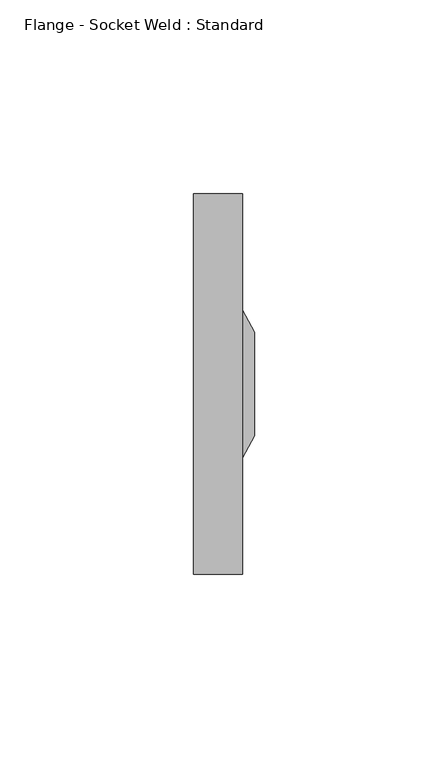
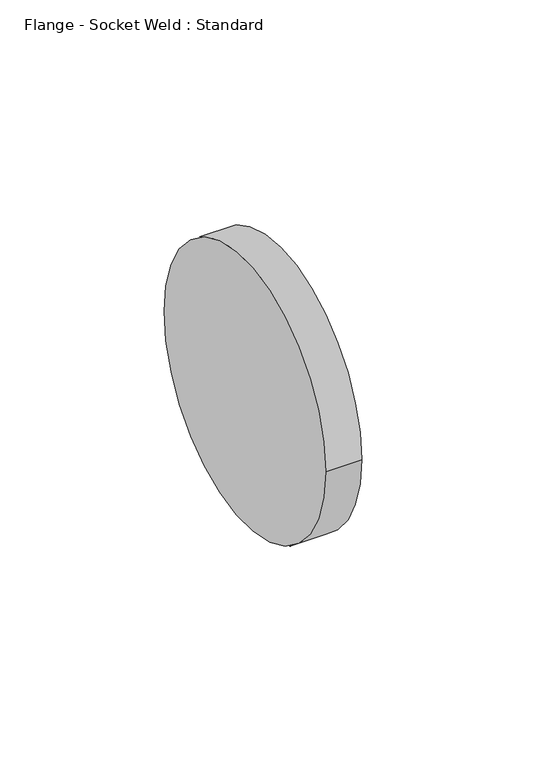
"""IFC4 building model written with IfcOpenShell, lengths in millimetres: valve geometry, Flange - Socket Weld : Standard."""

from ifc_helpers import new_model, si_unit, frame, origin, place, context, project, spatial, polyline, circle_curve, source, transform, mapped, element, save
from ifc_brep_helpers import plane_surface, cylinder_surface, revolved_surface, advanced_brep


def flange_socket_weld_standard_23d3222c(model_context):
    return source(origin(), model_context, "Body", "AdvancedBrep", [
        advanced_brep(
        [(1.5875, -49.2125, 0.0), (1.5875, 49.2125, 0.0), (14.2875, -49.2125, 0.0), (14.2875, 49.2125, 0.0), (14.2875, 19.05, 0.0), (14.2875, -19.05, 0.0), (17.4625, -13.335, 0.0), (17.4625, 13.335, 0.0)],
        [
            (0, 1, circle_curve(frame((1.5875, 0.0, 0.0), z_axis=(-1.0, 0.0, 0.0), x_axis=(0.0, 1.0, 0.0)), 49.2125)),
            (1, 0, circle_curve(frame((1.5875, 0.0, 0.0), z_axis=(-1.0, 0.0, 0.0), x_axis=(0.0, 1.0, 0.0)), 49.2125)),
            (2, 3, circle_curve(frame((14.2875, 0.0, 0.0), z_axis=(1.0, 0.0, 0.0), x_axis=(0.0, 1.0, 0.0)), 49.2125)),
            (3, 2, circle_curve(frame((14.2875, 0.0, 0.0), z_axis=(1.0, 0.0, 0.0), x_axis=(0.0, 1.0, 0.0)), 49.2125)),
            (4, 5, circle_curve(frame((14.2875, 0.0, 0.0), z_axis=(-1.0, 0.0, 0.0), x_axis=(0.0, -1.0, 0.0)), 19.05)),
            (5, 4, circle_curve(frame((14.2875, 0.0, 0.0), z_axis=(-1.0, 0.0, 0.0), x_axis=(0.0, 1.0, 0.0)), 19.05)),
            (0, 2),
            (3, 1),
            (6, 7, circle_curve(frame((17.4625, 0.0, 0.0), z_axis=(1.0, 0.0, 0.0), x_axis=(0.0, -1.0, 0.0)), 13.335)),
            (7, 6, circle_curve(frame((17.4625, 0.0, 0.0), z_axis=(1.0, 0.0, 0.0), x_axis=(0.0, 1.0, 0.0)), 13.335)),
            (6, 5),
            (4, 7),
        ],
        [
            plane_surface(frame((1.5875, 0.0, 0.0), z_axis=(-1.0, 0.0, 0.0), x_axis=(0.0, 0.0, 1.0))),
            plane_surface(frame((14.2875, 0.0, 0.0), z_axis=(1.0, 0.0, 0.0), x_axis=(0.0, 0.0, 1.0))),
            cylinder_surface(frame((1.5875, 0.0, 0.0), z_axis=(-1.0, 0.0, 0.0), x_axis=(0.0, 1.0, 0.0)), 49.2125),
            plane_surface(frame((17.4625, 0.0, 0.0), z_axis=(1.0, 0.0, 0.0), x_axis=(0.0, 0.0, -1.0))),
            revolved_surface(polyline([(17.4625, -13.334999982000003, 0.0), (14.2875, -19.05, 0.0)]), (24.8708333, 0.0, 0.0), (-1.0, 0.0, 0.0)),
            revolved_surface(polyline([(17.4625, 13.334999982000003, 0.0), (14.2875, 19.05, 0.0)]), (24.8708333, 0.0, 0.0), (-1.0, 0.0, 0.0)),
        ],
        [
            (0, [[1, 2]]),
            (1, [[3, 4], [5, 6]]),
            (2, [[-1, 7, -4, 8]]),
            (2, [[-2, -8, -3, -7]]),
            (3, [[9, 10]]),
            (4, [[-9, 11, -5, 12]]),
            (5, [[-10, -12, -6, -11]]),
        ],
    ),
    ])


if __name__ == "__main__":
    model = new_model("IFC4")
    model_context = context("Model", 3, world=origin())
    ifc_project = project(units=[si_unit("LENGTHUNIT", "METRE", prefix="MILLI")], contexts=[model_context])
    site = spatial("IfcSite", under=ifc_project)
    building = spatial("IfcBuilding", under=site)
    placement = place(None, origin())
    flange_socket_weld_standard_shape = flange_socket_weld_standard_23d3222c(model_context)
    element("IfcValve", 1, ObjectType="Flange - Socket Weld : Standard", at=placement, inside=building, context=model_context, shape_type="MappedRepresentation", body=[
        mapped(flange_socket_weld_standard_shape, transform((0.0, 0.0, 0.0), x_axis=(1.0, 0.0, 0.0), y_axis=(0.0, 1.0, 0.0), z_axis=(0.0, 0.0, 1.0))),
    ])
    save(model, "model.ifc")
